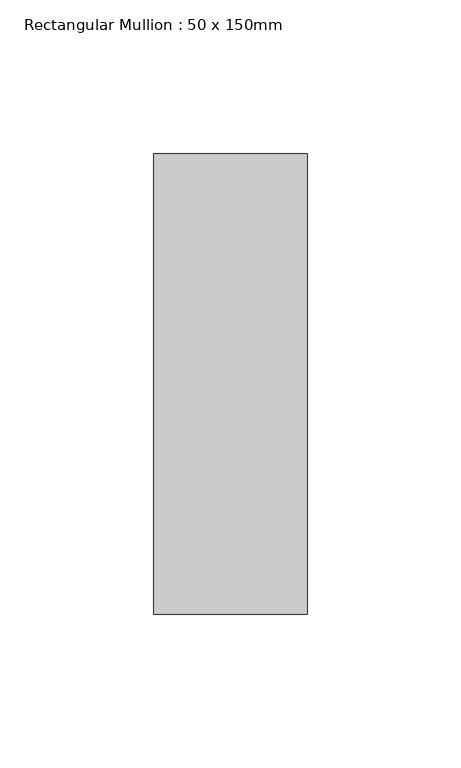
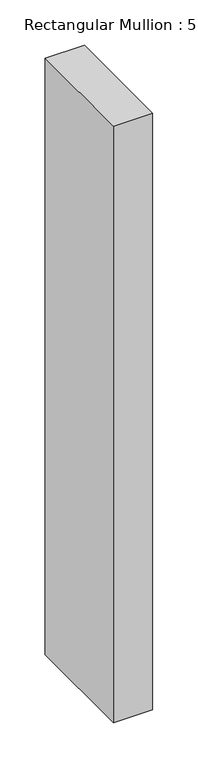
"""IFC4 building model written with IfcOpenShell, lengths in millimetres: member geometry, Rectangular Mullion : 50 x 150mm."""

from ifc_helpers import new_model, si_unit, frame, origin, place, context, project, spatial, polyline, outline, extrude, source, transform, mapped, element, save


def rectangular_mullion_50_x_150mm_0c82eb51(model_context):
    return source(origin(), model_context, "Body", "SweptSolid", [
        extrude(outline(polyline([(0.0, 75.0), (0.0, -75.0), (-50.0, -75.0), (-50.0, 75.0), (0.0, 75.0)])), frame((0.0, 0.0, -801.1532588), z_axis=(0.0, 0.0, 1.0), x_axis=(1.0, 0.0, 0.0)), (0.0, 0.0, 1.0), 801.1532588),
    ])


if __name__ == "__main__":
    model = new_model("IFC4")
    model_context = context("Model", 3, world=origin())
    ifc_project = project(units=[si_unit("LENGTHUNIT", "METRE", prefix="MILLI")], contexts=[model_context])
    site = spatial("IfcSite", under=ifc_project)
    building = spatial("IfcBuilding", under=site)
    placement = place(None, origin())
    rectangular_mullion_50_x_150mm_shape = rectangular_mullion_50_x_150mm_0c82eb51(model_context)
    element("IfcMember", 1, ObjectType="Rectangular Mullion : 50 x 150mm", at=placement, inside=building, context=model_context, shape_type="MappedRepresentation", body=[
        mapped(rectangular_mullion_50_x_150mm_shape, transform((0.0, 0.0, 0.0), x_axis=(1.0, 0.0, 0.0), y_axis=(0.0, 1.0, 0.0), z_axis=(0.0, 0.0, 1.0))),
    ])
    save(model, "model.ifc")
